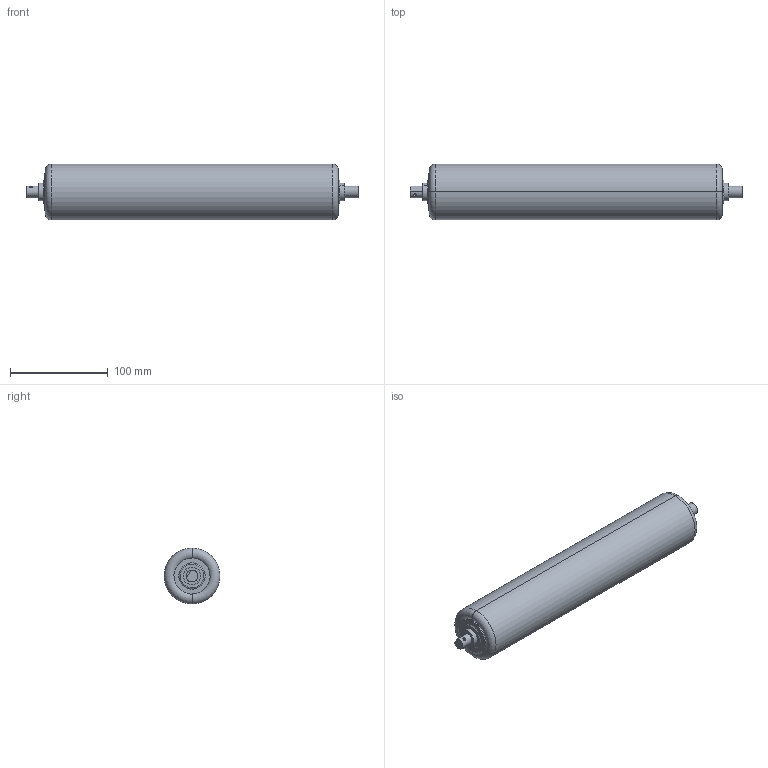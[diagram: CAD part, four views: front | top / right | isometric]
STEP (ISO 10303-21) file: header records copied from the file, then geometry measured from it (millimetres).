
FILE_DESCRIPTION (( 'STEP AP203' ), '1' );
FILE_NAME ('HR-5714(5714P).STEP', '2022-03-25T02:38:57', ( 'Microsoft' ), ( 'Microsoft' ), 'SwSTEP 2.0', 'SolidWorks 2020', '' );
FILE_SCHEMA (( 'CONFIG_CONTROL_DESIGN' ));
Length unit declared in the file: millimetre
Products named in the file (4): HR-5714P 粣創; HR-5714P 粣; HR-5714(5714P); HR-5714P 芠极
Assembly tree (4 placements, depth 2):
  HR-5714(5714P)
    HR-5714P 芠极
    HR-5714P 粣
    HR-5714P 粣創  x2
Bounding box: 340 x 57.2 x 57.2 mm (x, y, z)
Volume: 134412.8 mm3; surface area: 135256 mm2
Topology: 4 solids, 6 shells, 102 faces, 206 edges, 120 vertices
Faces by surface type: cylinder 48, torus 20, plane 18, cone 16
Entity records: 2360 total; most frequent: CARTESIAN_POINT 400, DIRECTION 378, ORIENTED_EDGE 280, AXIS2_PLACEMENT_3D 166, EDGE_CURVE 140, CIRCLE 90, VERTEX_POINT 80, EDGE_LOOP 78
